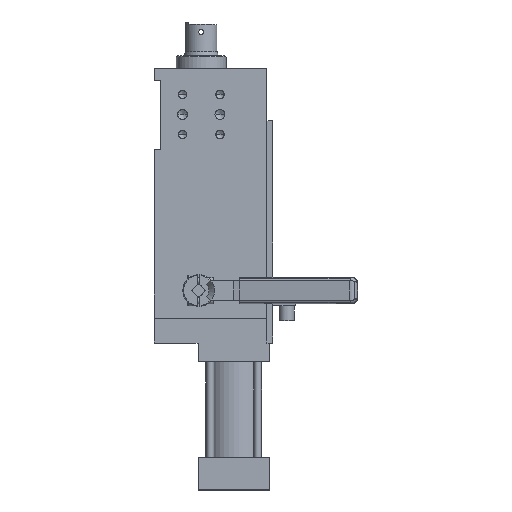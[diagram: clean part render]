
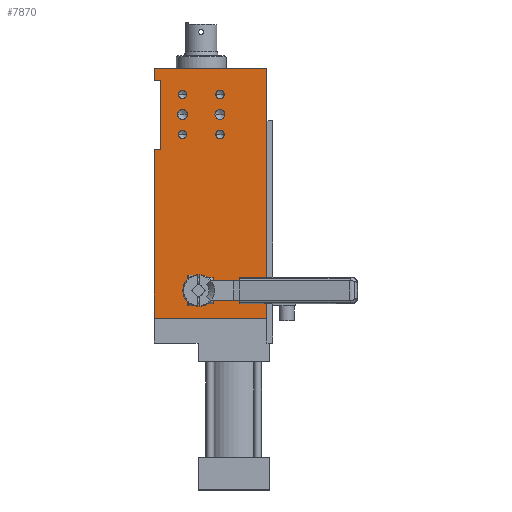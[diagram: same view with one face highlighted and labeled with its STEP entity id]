
A CAD part, top view. The second image highlights one B-rep face of the part: STEP entity #7870.
In plain terms, the highlighted planar face has unit normal (0, 0, 1).
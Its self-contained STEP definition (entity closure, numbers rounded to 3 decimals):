
#1160=CARTESIAN_POINT('',(-62.125,-0.575,44.063));
#1161=VERTEX_POINT('',#1160);
#1177=CARTESIAN_POINT('',(-70.125,-0.575,44.063));
#1178=VERTEX_POINT('',#1177);
#1185=CARTESIAN_POINT('',(-66.125,-0.575,44.063));
#1186=DIRECTION('',(0.0,0.0,1.0));
#1187=DIRECTION('',(1.0,0.0,0.0));
#1188=AXIS2_PLACEMENT_3D('',#1185,#1186,#1187);
#1189=CIRCLE('',#1188,4.0);
#1190=EDGE_CURVE('',#1161,#1178,#1189,.F.);
#1325=CARTESIAN_POINT('',(-92.125,-0.575,44.063));
#1326=VERTEX_POINT('',#1325);
#1347=CARTESIAN_POINT('',(-100.125,-0.575,44.063));
#1348=VERTEX_POINT('',#1347);
#1355=CARTESIAN_POINT('',(-96.125,-0.575,44.063));
#1356=DIRECTION('',(0.0,0.0,1.0));
#1357=DIRECTION('',(1.0,0.0,0.0));
#1358=AXIS2_PLACEMENT_3D('',#1355,#1356,#1357);
#1359=CIRCLE('',#1358,4.0);
#1360=EDGE_CURVE('',#1326,#1348,#1359,.F.);
#1559=CARTESIAN_POINT('',(-62.802,-16.575,44.063));
#1560=VERTEX_POINT('',#1559);
#1576=CARTESIAN_POINT('',(-69.449,-16.575,44.063));
#1577=VERTEX_POINT('',#1576);
#1584=CARTESIAN_POINT('',(-66.125,-16.575,44.063));
#1585=DIRECTION('',(0.0,0.0,1.0));
#1586=DIRECTION('',(1.0,0.0,0.0));
#1587=AXIS2_PLACEMENT_3D('',#1584,#1585,#1586);
#1588=CIRCLE('',#1587,3.324);
#1589=EDGE_CURVE('',#1560,#1577,#1588,.F.);
#1672=CARTESIAN_POINT('',(-62.802,15.425,44.063));
#1673=VERTEX_POINT('',#1672);
#1689=CARTESIAN_POINT('',(-69.449,15.425,44.063));
#1690=VERTEX_POINT('',#1689);
#1697=CARTESIAN_POINT('',(-66.125,15.425,44.063));
#1698=DIRECTION('',(0.0,0.0,1.0));
#1699=DIRECTION('',(1.0,0.0,0.0));
#1700=AXIS2_PLACEMENT_3D('',#1697,#1698,#1699);
#1701=CIRCLE('',#1700,3.324);
#1702=EDGE_CURVE('',#1673,#1690,#1701,.F.);
#1837=CARTESIAN_POINT('',(-92.802,15.425,44.063));
#1838=VERTEX_POINT('',#1837);
#1859=CARTESIAN_POINT('',(-99.449,15.425,44.063));
#1860=VERTEX_POINT('',#1859);
#1867=CARTESIAN_POINT('',(-96.125,15.425,44.063));
#1868=DIRECTION('',(0.0,0.0,1.0));
#1869=DIRECTION('',(1.0,0.0,0.0));
#1870=AXIS2_PLACEMENT_3D('',#1867,#1868,#1869);
#1871=CIRCLE('',#1870,3.324);
#1872=EDGE_CURVE('',#1838,#1860,#1871,.F.);
#1957=CARTESIAN_POINT('',(-92.802,-16.575,44.063));
#1958=VERTEX_POINT('',#1957);
#1979=CARTESIAN_POINT('',(-99.449,-16.575,44.063));
#1980=VERTEX_POINT('',#1979);
#1987=CARTESIAN_POINT('',(-96.125,-16.575,44.063));
#1988=DIRECTION('',(0.0,0.0,1.0));
#1989=DIRECTION('',(1.0,0.0,0.0));
#1990=AXIS2_PLACEMENT_3D('',#1987,#1988,#1989);
#1991=CIRCLE('',#1990,3.324);
#1992=EDGE_CURVE('',#1958,#1980,#1991,.F.);
#3585=CARTESIAN_POINT('',(-88.125,-141.575,44.063));
#3586=VERTEX_POINT('',#3585);
#3595=CARTESIAN_POINT('',(-78.125,-141.575,44.063));
#3596=VERTEX_POINT('',#3595);
#3597=CARTESIAN_POINT('',(-83.125,-141.575,44.063));
#3598=DIRECTION('',(0.0,0.0,1.0));
#3599=DIRECTION('',(-1.0,0.0,0.0));
#3600=AXIS2_PLACEMENT_3D('',#3597,#3598,#3599);
#3601=CIRCLE('',#3600,5.0);
#3602=EDGE_CURVE('',#3596,#3586,#3601,.F.);
#4266=CARTESIAN_POINT('',(-83.125,-141.575,44.063));
#4267=DIRECTION('',(0.0,0.0,1.0));
#4268=DIRECTION('',(-1.0,0.0,0.0));
#4269=AXIS2_PLACEMENT_3D('',#4266,#4267,#4268);
#4270=CIRCLE('',#4269,5.0);
#4271=EDGE_CURVE('',#3586,#3596,#4270,.F.);
#4653=CARTESIAN_POINT('',(-113.625,26.425,44.063));
#4654=VERTEX_POINT('',#4653);
#4661=CARTESIAN_POINT('',(-118.625,26.425,44.063));
#4662=VERTEX_POINT('',#4661);
#4663=CARTESIAN_POINT('',(-118.625,26.425,44.063));
#4664=DIRECTION('',(1.0,0.0,0.0));
#4665=VECTOR('',#4664,5.0);
#4666=LINE('',#4663,#4665);
#4667=EDGE_CURVE('',#4662,#4654,#4666,.T.);
#5445=CARTESIAN_POINT('',(-96.125,-16.575,44.063));
#5446=DIRECTION('',(0.0,0.0,1.0));
#5447=DIRECTION('',(1.0,0.0,0.0));
#5448=AXIS2_PLACEMENT_3D('',#5445,#5446,#5447);
#5449=CIRCLE('',#5448,3.324);
#5450=EDGE_CURVE('',#1980,#1958,#5449,.F.);
#5561=CARTESIAN_POINT('',(-96.125,15.425,44.063));
#5562=DIRECTION('',(0.0,0.0,1.0));
#5563=DIRECTION('',(1.0,0.0,0.0));
#5564=AXIS2_PLACEMENT_3D('',#5561,#5562,#5563);
#5565=CIRCLE('',#5564,3.324);
#5566=EDGE_CURVE('',#1860,#1838,#5565,.F.);
#5709=CARTESIAN_POINT('',(-66.125,15.425,44.063));
#5710=DIRECTION('',(0.0,0.0,1.0));
#5711=DIRECTION('',(1.0,0.0,0.0));
#5712=AXIS2_PLACEMENT_3D('',#5709,#5710,#5711);
#5713=CIRCLE('',#5712,3.324);
#5714=EDGE_CURVE('',#1690,#1673,#5713,.F.);
#5780=CARTESIAN_POINT('',(-66.125,-16.575,44.063));
#5781=DIRECTION('',(0.0,0.0,1.0));
#5782=DIRECTION('',(1.0,0.0,0.0));
#5783=AXIS2_PLACEMENT_3D('',#5780,#5781,#5782);
#5784=CIRCLE('',#5783,3.324);
#5785=EDGE_CURVE('',#1577,#1560,#5784,.F.);
#5899=CARTESIAN_POINT('',(-96.125,-0.575,44.063));
#5900=DIRECTION('',(0.0,0.0,1.0));
#5901=DIRECTION('',(1.0,0.0,0.0));
#5902=AXIS2_PLACEMENT_3D('',#5899,#5900,#5901);
#5903=CIRCLE('',#5902,4.0);
#5904=EDGE_CURVE('',#1348,#1326,#5903,.F.);
#6035=CARTESIAN_POINT('',(-66.125,-0.575,44.063));
#6036=DIRECTION('',(0.0,0.0,1.0));
#6037=DIRECTION('',(1.0,0.0,0.0));
#6038=AXIS2_PLACEMENT_3D('',#6035,#6036,#6037);
#6039=CIRCLE('',#6038,4.0);
#6040=EDGE_CURVE('',#1178,#1161,#6039,.F.);
#6779=CARTESIAN_POINT('',(-28.625,36.425,44.063));
#6780=VERTEX_POINT('',#6779);
#6787=CARTESIAN_POINT('',(-28.625,-163.575,44.063));
#6788=VERTEX_POINT('',#6787);
#6789=CARTESIAN_POINT('',(-28.625,36.425,44.063));
#6790=DIRECTION('',(0.0,-1.0,0.0));
#6791=VECTOR('',#6790,200.0);
#6792=LINE('',#6789,#6791);
#6793=EDGE_CURVE('',#6780,#6788,#6792,.T.);
#7454=CARTESIAN_POINT('',(-118.625,-163.575,44.063));
#7455=VERTEX_POINT('',#7454);
#7456=CARTESIAN_POINT('',(-118.625,-163.575,44.063));
#7457=DIRECTION('',(1.0,0.0,0.0));
#7458=VECTOR('',#7457,90.);
#7459=LINE('',#7456,#7458);
#7460=EDGE_CURVE('',#7455,#6788,#7459,.T.);
#7518=CARTESIAN_POINT('',(-113.625,-28.575,44.063));
#7519=VERTEX_POINT('',#7518);
#7526=CARTESIAN_POINT('',(-113.625,26.425,44.063));
#7527=DIRECTION('',(0.0,-1.0,0.0));
#7528=VECTOR('',#7527,55.0);
#7529=LINE('',#7526,#7528);
#7530=EDGE_CURVE('',#4654,#7519,#7529,.T.);
#7573=CARTESIAN_POINT('',(-118.625,-28.575,44.063));
#7574=VERTEX_POINT('',#7573);
#7581=CARTESIAN_POINT('',(-113.625,-28.575,44.063));
#7582=DIRECTION('',(-1.0,0.0,0.0));
#7583=VECTOR('',#7582,5.0);
#7584=LINE('',#7581,#7583);
#7585=EDGE_CURVE('',#7519,#7574,#7584,.T.);
#7658=CARTESIAN_POINT('',(-118.625,36.425,44.063));
#7659=VERTEX_POINT('',#7658);
#7660=CARTESIAN_POINT('',(-118.625,26.425,44.063));
#7661=DIRECTION('',(0.0,1.0,0.0));
#7662=VECTOR('',#7661,10.0);
#7663=LINE('',#7660,#7662);
#7664=EDGE_CURVE('',#4662,#7659,#7663,.T.);
#7777=CARTESIAN_POINT('',(-118.625,-163.575,44.063));
#7778=DIRECTION('',(0.0,1.0,0.0));
#7779=VECTOR('',#7778,135.0);
#7780=LINE('',#7777,#7779);
#7781=EDGE_CURVE('',#7455,#7574,#7780,.T.);
#7791=CARTESIAN_POINT('',(-118.625,36.425,44.063));
#7792=DIRECTION('',(1.0,0.0,0.0));
#7793=VECTOR('',#7792,90.);
#7794=LINE('',#7791,#7793);
#7795=EDGE_CURVE('',#7659,#6780,#7794,.T.);
#7827=CARTESIAN_POINT('',(-73.625,-73.575,44.063));
#7828=DIRECTION('',(0.0,0.0,1.0));
#7829=DIRECTION('',(1.0,0.0,0.0));
#7830=AXIS2_PLACEMENT_3D('',#7827,#7828,#7829);
#7831=PLANE('',#7830);
#7832=ORIENTED_EDGE('',*,*,#7781,.F.);
#7833=ORIENTED_EDGE('',*,*,#7460,.T.);
#7834=ORIENTED_EDGE('',*,*,#6793,.F.);
#7835=ORIENTED_EDGE('',*,*,#7795,.F.);
#7836=ORIENTED_EDGE('',*,*,#7664,.F.);
#7837=ORIENTED_EDGE('',*,*,#4667,.T.);
#7838=ORIENTED_EDGE('',*,*,#7530,.T.);
#7839=ORIENTED_EDGE('',*,*,#7585,.T.);
#7840=EDGE_LOOP('',(#7832,#7833,#7834,#7835,#7836,#7837,#7838,#7839));
#7841=FACE_OUTER_BOUND('',#7840,.T.);
#7842=ORIENTED_EDGE('',*,*,#3602,.T.);
#7843=ORIENTED_EDGE('',*,*,#4271,.T.);
#7844=EDGE_LOOP('',(#7842,#7843));
#7845=FACE_BOUND('',#7844,.T.);
#7846=ORIENTED_EDGE('',*,*,#1992,.T.);
#7847=ORIENTED_EDGE('',*,*,#5450,.T.);
#7848=EDGE_LOOP('',(#7846,#7847));
#7849=FACE_BOUND('',#7848,.T.);
#7850=ORIENTED_EDGE('',*,*,#1872,.T.);
#7851=ORIENTED_EDGE('',*,*,#5566,.T.);
#7852=EDGE_LOOP('',(#7850,#7851));
#7853=FACE_BOUND('',#7852,.T.);
#7854=ORIENTED_EDGE('',*,*,#1702,.T.);
#7855=ORIENTED_EDGE('',*,*,#5714,.T.);
#7856=EDGE_LOOP('',(#7854,#7855));
#7857=FACE_BOUND('',#7856,.T.);
#7858=ORIENTED_EDGE('',*,*,#1589,.T.);
#7859=ORIENTED_EDGE('',*,*,#5785,.T.);
#7860=EDGE_LOOP('',(#7858,#7859));
#7861=FACE_BOUND('',#7860,.T.);
#7862=ORIENTED_EDGE('',*,*,#1360,.T.);
#7863=ORIENTED_EDGE('',*,*,#5904,.T.);
#7864=EDGE_LOOP('',(#7862,#7863));
#7865=FACE_BOUND('',#7864,.T.);
#7866=ORIENTED_EDGE('',*,*,#1190,.T.);
#7867=ORIENTED_EDGE('',*,*,#6040,.T.);
#7868=EDGE_LOOP('',(#7866,#7867));
#7869=FACE_BOUND('',#7868,.T.);
#7870=ADVANCED_FACE('',(#7841,#7845,#7849,#7853,#7857,#7861,#7865,#7869),#7831,.T.);
